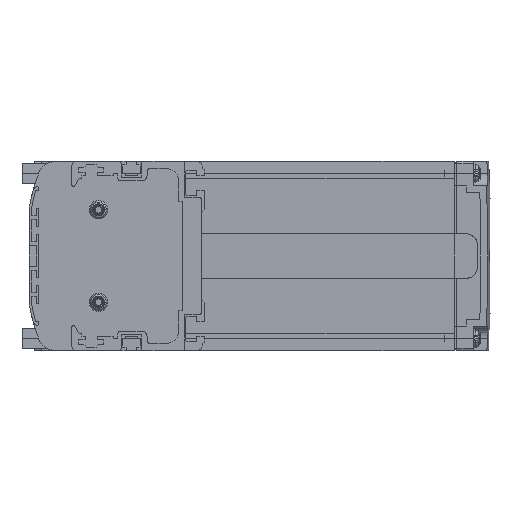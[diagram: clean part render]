
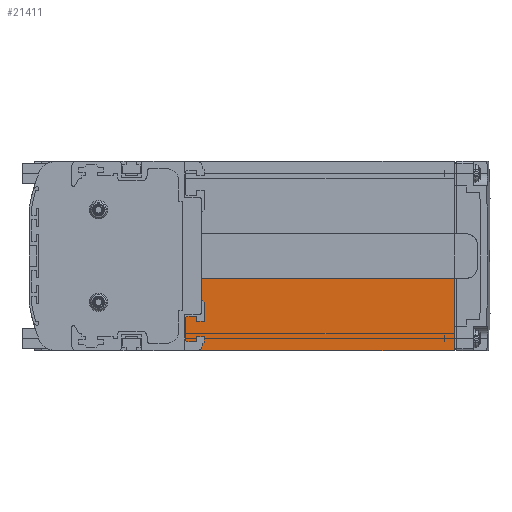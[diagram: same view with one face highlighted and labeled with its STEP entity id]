
A CAD part, left-side view. The second image highlights one B-rep face of the part: STEP entity #21411.
In plain terms, the highlighted planar face has unit normal (-1, 0, 0).
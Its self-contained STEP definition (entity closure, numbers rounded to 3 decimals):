
#239=DIRECTION('',(0.,0.,1.));
#240=VECTOR('',#239,29.9);
#241=CARTESIAN_POINT('',(3.,-103.,-39.));
#242=LINE('',#241,#240);
#485=DIRECTION('',(0.,1.,0.));
#486=VECTOR('',#485,112.);
#487=CARTESIAN_POINT('',(3.,-103.,-39.));
#488=LINE('',#487,#486);
#2935=DIRECTION('',(0.,0.,1.));
#2936=VECTOR('',#2935,13.9);
#2937=CARTESIAN_POINT('',(3.,1.,-23.));
#2938=LINE('',#2937,#2936);
#4891=DIRECTION('',(0.,1.,0.));
#4892=VECTOR('',#4891,104.);
#4893=CARTESIAN_POINT('',(3.,-103.,-9.1));
#4894=LINE('',#4893,#4892);
#12971=CARTESIAN_POINT('',(3.,2.,-23.));
#12972=DIRECTION('',(-1.,0.,0.));
#12973=DIRECTION('',(0.,0.,-1.));
#12974=AXIS2_PLACEMENT_3D('',#12971,#12972,#12973);
#12984=DIRECTION('',(0.,1.,0.));
#12985=VECTOR('',#12984,6.);
#12986=CARTESIAN_POINT('',(3.,2.,-24.));
#12987=LINE('',#12986,#12985);
#12988=DIRECTION('',(0.,0.,-1.));
#12989=VECTOR('',#12988,14.);
#12990=CARTESIAN_POINT('',(3.,8.,-24.));
#12991=LINE('',#12990,#12989);
#12996=CARTESIAN_POINT('',(3.,9.,-38.));
#12997=DIRECTION('',(-1.,0.,0.));
#12998=DIRECTION('',(0.,0.,-1.));
#12999=AXIS2_PLACEMENT_3D('',#12996,#12997,#12998);
#16968=CARTESIAN_POINT('',(3.,-103.,-39.));
#16969=VERTEX_POINT('',#16968);
#16970=CARTESIAN_POINT('',(3.,-103.,-9.1));
#16971=VERTEX_POINT('',#16970);
#20436=CARTESIAN_POINT('',(3.,1.,-23.));
#20437=CARTESIAN_POINT('',(3.,1.,-9.1));
#20438=VERTEX_POINT('',#20436);
#20439=VERTEX_POINT('',#20437);
#20484=CARTESIAN_POINT('',(3.,2.,-24.));
#20485=VERTEX_POINT('',#20484);
#20486=CARTESIAN_POINT('',(3.,8.,-24.));
#20487=VERTEX_POINT('',#20486);
#20488=CARTESIAN_POINT('',(3.,8.,-38.));
#20489=VERTEX_POINT('',#20488);
#20490=CARTESIAN_POINT('',(3.,9.,-39.));
#20491=VERTEX_POINT('',#20490);
#21389=CARTESIAN_POINT('',(3.,48.25,0.));
#21390=DIRECTION('',(1.,0.,0.));
#21391=DIRECTION('',(0.,1.,0.));
#21392=AXIS2_PLACEMENT_3D('',#21389,#21390,#21391);
#21393=PLANE('',#21392);
#21395=ORIENTED_EDGE('',*,*,#21394,.T.);
#21397=ORIENTED_EDGE('',*,*,#21396,.F.);
#21398=ORIENTED_EDGE('',*,*,#20945,.F.);
#21400=ORIENTED_EDGE('',*,*,#21399,.T.);
#21402=ORIENTED_EDGE('',*,*,#21401,.T.);
#21404=ORIENTED_EDGE('',*,*,#21403,.F.);
#21406=ORIENTED_EDGE('',*,*,#21405,.F.);
#21408=ORIENTED_EDGE('',*,*,#21407,.T.);
#21409=EDGE_LOOP('',(#21395,#21397,#21398,#21400,#21402,#21404,#21406,#21408));
#21410=FACE_OUTER_BOUND('',#21409,.F.);
#21411=ADVANCED_FACE('',(#21410),#21393,.F.);
#12975=CIRCLE('',#12974,1.);
#13000=CIRCLE('',#12999,1.);
#20945=EDGE_CURVE('',#16969,#16971,#242,.T.);
#21394=EDGE_CURVE('',#20438,#20439,#2938,.T.);
#21396=EDGE_CURVE('',#16971,#20439,#4894,.T.);
#21399=EDGE_CURVE('',#16969,#20491,#488,.T.);
#21401=EDGE_CURVE('',#20491,#20489,#13000,.T.);
#21403=EDGE_CURVE('',#20487,#20489,#12991,.T.);
#21405=EDGE_CURVE('',#20485,#20487,#12987,.T.);
#21407=EDGE_CURVE('',#20485,#20438,#12975,.T.);
